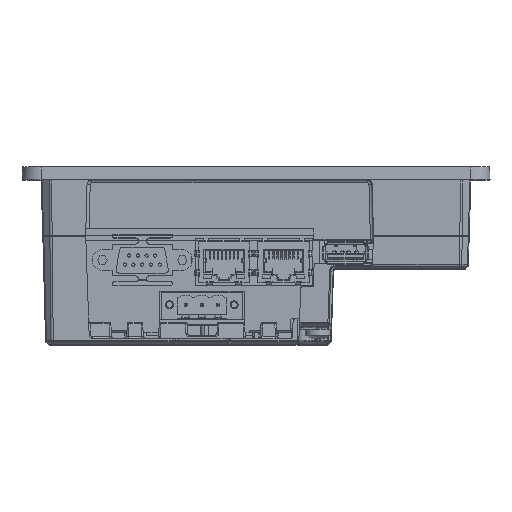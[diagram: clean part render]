
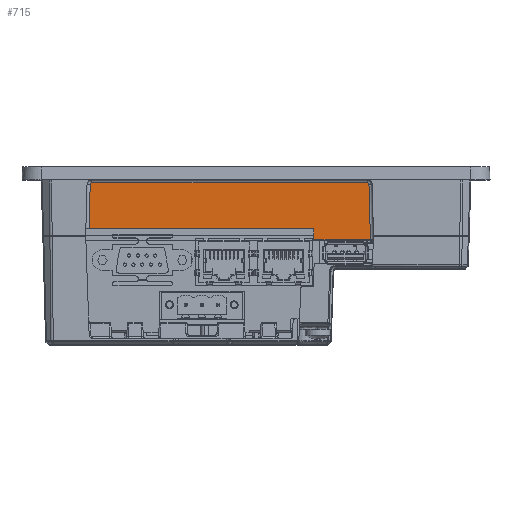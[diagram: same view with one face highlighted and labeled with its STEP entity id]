
A CAD part, top view. The second image highlights one B-rep face of the part: STEP entity #715.
In plain terms, the highlighted planar face has unit normal (0, -0.026, 1).
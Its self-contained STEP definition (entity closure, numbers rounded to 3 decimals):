
#715 = ADVANCED_FACE ( 'NONE', ( #62249 ), #2069, .F. ) ;
#2057 = CARTESIAN_POINT ( 'NONE',  ( -55.2, 1.5, 43.5 ) ) ;
#2069 = PLANE ( 'NONE',  #93203 ) ;
#2077 = DIRECTION ( 'NONE',  ( 0., 0.026, -1. ) ) ;
#2079 = DIRECTION ( 'NONE',  ( 0., 1., 0.026 ) ) ;
#4827 = B_SPLINE_CURVE_WITH_KNOTS ( 'NONE', 3,
 ( #19122, #19200, #19202, #19205, #19207, #19210, #19212, #19215, #19217, #19220, #19222, #19225 ),
 .UNSPECIFIED., .F., .F.,
 ( 4, 2, 2, 2, 2, 4 ),
 ( 0., 0.125, 0.25, 0.375, 0.5, 1. ),
 .UNSPECIFIED. ) ;
#14214 = LINE ( 'NONE', #19077, #14231 ) ;
#14231 = VECTOR ( 'NONE', #19107, 1000. ) ;
#14235 = VECTOR ( 'NONE', #19168, 1000. ) ;
#14237 = LINE ( 'NONE', #19120, #14235 ) ;
#14240 = LINE ( 'NONE', #19178, #14241 ) ;
#14241 = VECTOR ( 'NONE', #19180, 1000. ) ;
#14242 = LINE ( 'NONE', #19230, #14243 ) ;
#14243 = VECTOR ( 'NONE', #19232, 1000. ) ;
#14244 = LINE ( 'NONE', #19236, #14245 ) ;
#14245 = VECTOR ( 'NONE', #19239, 1000. ) ;
#14246 = LINE ( 'NONE', #19243, #14247 ) ;
#14247 = VECTOR ( 'NONE', #19245, 1000. ) ;
#18772 = CARTESIAN_POINT ( 'NONE',  ( -52.078, -1.461, 43.422 ) ) ;
#18792 = CARTESIAN_POINT ( 'NONE',  ( -52.077, -1.442, 43.423 ) ) ;
#18795 = CARTESIAN_POINT ( 'NONE',  ( -52.072, -1.381, 43.425 ) ) ;
#18797 = CARTESIAN_POINT ( 'NONE',  ( -52.045, -1.28, 43.427 ) ) ;
#18800 = CARTESIAN_POINT ( 'NONE',  ( -51.981, -1.168, 43.43 ) ) ;
#18802 = CARTESIAN_POINT ( 'NONE',  ( -51.89, -1.076, 43.433 ) ) ;
#18805 = CARTESIAN_POINT ( 'NONE',  ( -51.779, -1.01, 43.434 ) ) ;
#18807 = CARTESIAN_POINT ( 'NONE',  ( -51.672, -0.979, 43.435 ) ) ;
#18810 = CARTESIAN_POINT ( 'NONE',  ( -51.604, -0.974, 43.435 ) ) ;
#18812 = CARTESIAN_POINT ( 'NONE',  ( -51.578, -0.974, 43.435 ) ) ;
#19077 = CARTESIAN_POINT ( 'NONE',  ( 18.1, -15.4, 43.057 ) ) ;
#19107 = DIRECTION ( 'NONE',  ( 0.026, -0.999, -0.026 ) ) ;
#19120 = CARTESIAN_POINT ( 'NONE',  ( -55.2, -0.974, 43.435 ) ) ;
#19122 = CARTESIAN_POINT ( 'NONE',  ( 35.478, -1.461, 43.422 ) ) ;
#19168 = DIRECTION ( 'NONE',  ( 1., 0., 0. ) ) ;
#19178 = CARTESIAN_POINT ( 'NONE',  ( 35.932, -18.8, 42.968 ) ) ;
#19180 = DIRECTION ( 'NONE',  ( 0.026, -0.999, -0.026 ) ) ;
#19200 = CARTESIAN_POINT ( 'NONE',  ( 35.476, -1.425, 43.423 ) ) ;
#19202 = CARTESIAN_POINT ( 'NONE',  ( 35.472, -1.392, 43.424 ) ) ;
#19205 = CARTESIAN_POINT ( 'NONE',  ( 35.458, -1.33, 43.426 ) ) ;
#19207 = CARTESIAN_POINT ( 'NONE',  ( 35.449, -1.302, 43.427 ) ) ;
#19210 = CARTESIAN_POINT ( 'NONE',  ( 35.422, -1.242, 43.428 ) ) ;
#19212 = CARTESIAN_POINT ( 'NONE',  ( 35.406, -1.213, 43.429 ) ) ;
#19215 = CARTESIAN_POINT ( 'NONE',  ( 35.37, -1.161, 43.43 ) ) ;
#19217 = CARTESIAN_POINT ( 'NONE',  ( 35.351, -1.139, 43.431 ) ) ;
#19220 = CARTESIAN_POINT ( 'NONE',  ( 35.231, -1.024, 43.434 ) ) ;
#19222 = CARTESIAN_POINT ( 'NONE',  ( 35.115, -0.977, 43.435 ) ) ;
#19225 = CARTESIAN_POINT ( 'NONE',  ( 34.978, -0.974, 43.435 ) ) ;
#19230 = CARTESIAN_POINT ( 'NONE',  ( 18.1, -15.4, 43.057 ) ) ;
#19232 = DIRECTION ( 'NONE',  ( 1., 0., 0. ) ) ;
#19236 = CARTESIAN_POINT ( 'NONE',  ( -55.198, -120.616, 40.302 ) ) ;
#19239 = DIRECTION ( 'NONE',  ( -0.026, -0.999, -0.026 ) ) ;
#19243 = CARTESIAN_POINT ( 'NONE',  ( 0., -18.8, 42.968 ) ) ;
#19245 = DIRECTION ( 'NONE',  ( -1., 0., 0. ) ) ;
#22128 = EDGE_CURVE ( 'NONE', #83210, #83212, #86663, .T. ) ;
#22161 = EDGE_CURVE ( 'NONE', #83257, #83259, #14214, .T. ) ;
#22165 = EDGE_CURVE ( 'NONE', #83212, #83248, #14237, .T. ) ;
#22167 = EDGE_CURVE ( 'NONE', #83249, #83251, #14240, .T. ) ;
#22169 = EDGE_CURVE ( 'NONE', #83249, #83248, #4827, .T. ) ;
#22170 = EDGE_CURVE ( 'NONE', #83255, #83257, #14242, .T. ) ;
#22171 = EDGE_CURVE ( 'NONE', #83210, #83255, #14244, .T. ) ;
#22172 = EDGE_CURVE ( 'NONE', #83251, #83259, #14246, .T. ) ;
#41374 = EDGE_LOOP ( 'NONE', ( #47888, #47915, #47918, #47893, #47934, #47896, #47939, #47904 ) ) ;
#47888 = ORIENTED_EDGE ( 'NONE', *, *, #22171, .T. ) ;
#47893 = ORIENTED_EDGE ( 'NONE', *, *, #22172, .F. ) ;
#47896 = ORIENTED_EDGE ( 'NONE', *, *, #22169, .T. ) ;
#47904 = ORIENTED_EDGE ( 'NONE', *, *, #22128, .F. ) ;
#47915 = ORIENTED_EDGE ( 'NONE', *, *, #22170, .T. ) ;
#47918 = ORIENTED_EDGE ( 'NONE', *, *, #22161, .T. ) ;
#47934 = ORIENTED_EDGE ( 'NONE', *, *, #22167, .F. ) ;
#47939 = ORIENTED_EDGE ( 'NONE', *, *, #22165, .F. ) ;
#62249 = FACE_OUTER_BOUND ( 'NONE', #41374, .T. ) ;
#83210 = VERTEX_POINT ( 'NONE', #98180 ) ;
#83212 = VERTEX_POINT ( 'NONE', #98182 ) ;
#83248 = VERTEX_POINT ( 'NONE', #98218 ) ;
#83249 = VERTEX_POINT ( 'NONE', #98219 ) ;
#83251 = VERTEX_POINT ( 'NONE', #98221 ) ;
#83255 = VERTEX_POINT ( 'NONE', #98225 ) ;
#83257 = VERTEX_POINT ( 'NONE', #98227 ) ;
#83259 = VERTEX_POINT ( 'NONE', #98229 ) ;
#86663 =( BOUNDED_CURVE ( )  B_SPLINE_CURVE ( 3, ( #18772, #18792, #18795, #18797, #18800, #18802, #18805, #18807, #18810, #18812 ),
 .UNSPECIFIED., .F., .T. ) 
 B_SPLINE_CURVE_WITH_KNOTS ( ( 4, 1, 1, 1, 1, 1, 1, 4 ),
 ( 0., 0.071, 0.237, 0.403, 0.569, 0.735, 0.901, 1. ),
 .UNSPECIFIED. ) 
 CURVE ( )  GEOMETRIC_REPRESENTATION_ITEM ( )  RATIONAL_B_SPLINE_CURVE ( ( 1.171, 1.171, 1.171, 1.171, 1.171, 1.171, 1.171, 1.171, 1.171, 1.171 ) ) 
 REPRESENTATION_ITEM ( '' )  );
#93203 = AXIS2_PLACEMENT_3D ( 'NONE', #2057, #2077, #2079 ) ;
#98180 = CARTESIAN_POINT ( 'NONE',  ( -52.078, -1.461, 43.422 ) ) ;
#98182 = CARTESIAN_POINT ( 'NONE',  ( -51.578, -0.974, 43.435 ) ) ;
#98218 = CARTESIAN_POINT ( 'NONE',  ( 34.978, -0.974, 43.435 ) ) ;
#98219 = CARTESIAN_POINT ( 'NONE',  ( 35.478, -1.461, 43.422 ) ) ;
#98221 = CARTESIAN_POINT ( 'NONE',  ( 35.932, -18.8, 42.968 ) ) ;
#98225 = CARTESIAN_POINT ( 'NONE',  ( -52.443, -15.4, 43.057 ) ) ;
#98227 = CARTESIAN_POINT ( 'NONE',  ( 18.1, -15.4, 43.057 ) ) ;
#98229 = CARTESIAN_POINT ( 'NONE',  ( 18.189, -18.8, 42.968 ) ) ;
